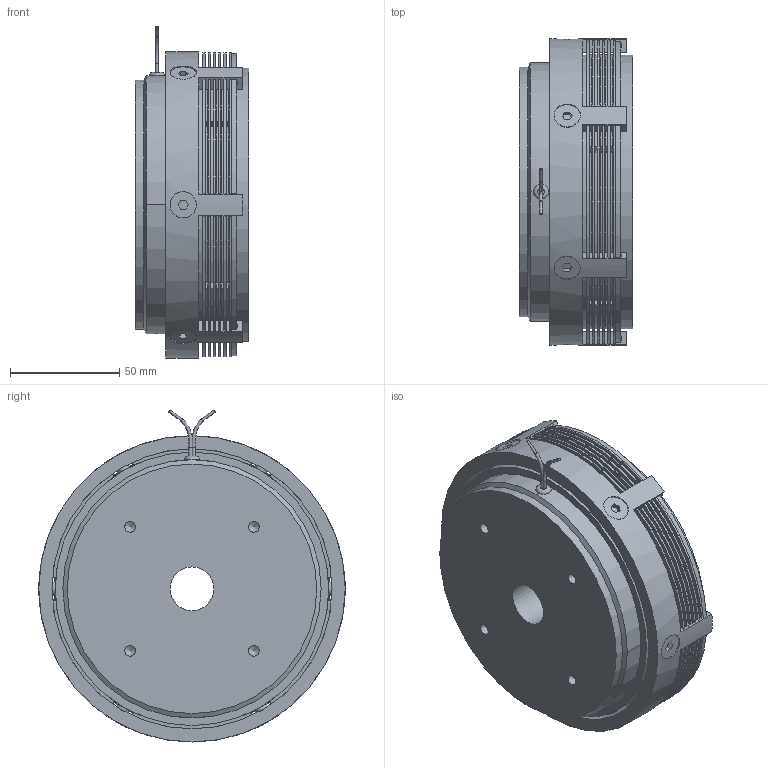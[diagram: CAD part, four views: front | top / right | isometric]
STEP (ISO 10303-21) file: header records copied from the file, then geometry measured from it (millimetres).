
FILE_DESCRIPTION(/* description */ (''),/* implementation_level */ '2;1');
FILE_NAME(/* name */ 'X:\INVENTOR\DISEGNI\05_Friz_Elettmag-Lam\05_06 EC_F\05_06_140_01 EC_F140\05_06_140_01 EC_F140@STEP.stp',/* time_stamp */ '2023-03-10T15:00:12+01:00',/* author */ ('alessio'),/* organization */ (''),/* preprocessor_version */ 'ST-DEVELOPER v18.1',/* originating_system */ 'Autodesk Inventor 2021',/* authorisation */ '');
FILE_SCHEMA (('AUTOMOTIVE_DESIGN { 1 0 10303 214 3 1 1 }'));
Products named in the file (1): 05_06_140_01 EC_F140
Bounding box: 52 x 140 x 151.72 mm (x, y, z)
Volume: 523608.1 mm3; surface area: 243907.2 mm2
Topology: 11 solids, 24 shells, 1675 faces, 4828 edges, 3173 vertices
Faces by surface type: cylinder 1202, plane 442, cone 20, torus 9, bspline 2
Full cylindrical faces by diameter (mm): 1.154 x2, 1.5 x1, 2 x6, 3 x1, 4.917 x10, 6 x6, 6.5 x6, 8 x1, 12 x6, 20 x1, 70 x2, 89 x1, 91 x1, 96 x1, 100 x1, 110 x1, 111 x1, 114 x1, 125 x2, 128 x1, 140 x1
Entity records: 59285 total; most frequent: CARTESIAN_POINT 11053, DIRECTION 10631, ORIENTED_EDGE 9636, EDGE_CURVE 4818, AXIS2_PLACEMENT_3D 4218, VERTEX_POINT 3173, CIRCLE 2544, LINE 2195
